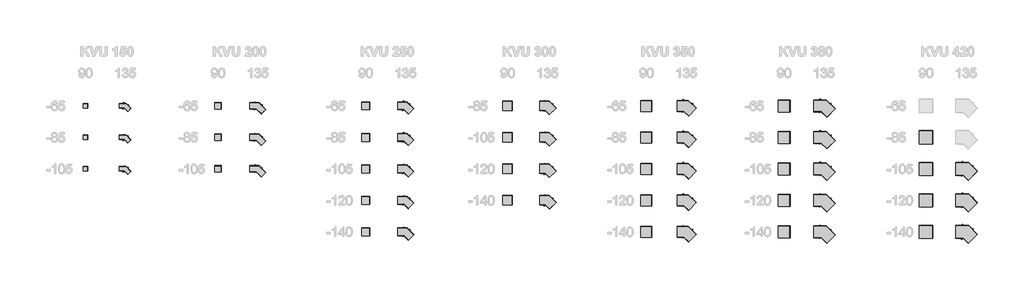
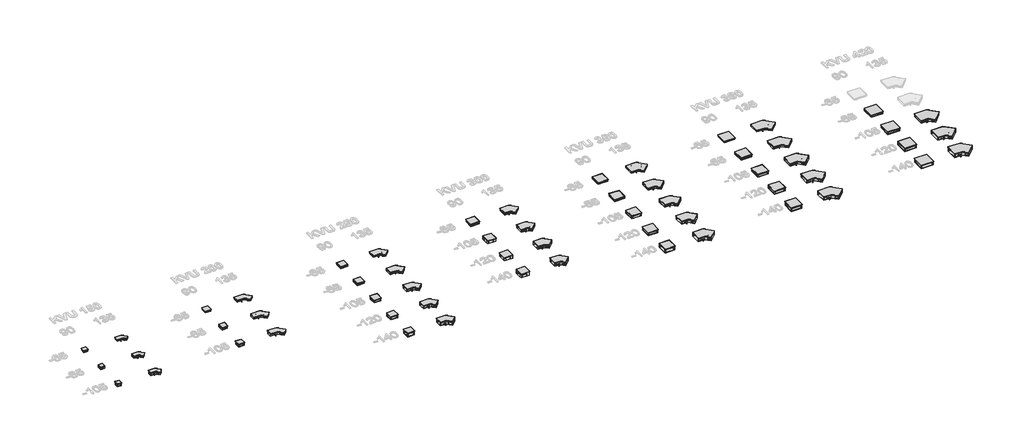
# One storey, part 1 of 6: 113 proxies.
"""IFC4 building model written with IfcOpenShell, lengths in millimetres."""

from ifc_helpers import new_model, si_unit, origin, place, context, project, spatial, transform, mapped, element, save
from components import mechanical_equipment_6bd45da9, mechanical_equipment_f506e6a4, mechanical_equipment_46e36d35, mechanical_equipment_8c528c47, mechanical_equipment_25e5aaf1, mechanical_equipment_80ec096f, mechanical_equipment_4d0f178e, mechanical_equipment_6c30b403, mechanical_equipment_c4d98315, mechanical_equipment_330198d8, mechanical_equipment_ebc65f48, mechanical_equipment_324d8ace, mechanical_equipment_b9d91c73, mechanical_equipment_570afbbc, mechanical_equipment_9d287563, mechanical_equipment_6aecba1d, mechanical_equipment_7f4ab304, mechanical_equipment_ec8b2621, mechanical_equipment_ff435718, mechanical_equipment_9ba64870, mechanical_equipment_9e960046, mechanical_equipment_96d6deb1, mechanical_equipment_dacad1b7, mechanical_equipment_d0ffbf03, mechanical_equipment_f91bf6bd, mechanical_equipment_a1f23103, mechanical_equipment_c13f3576, mechanical_equipment_a61a3835, mechanical_equipment_5477d933, mechanical_equipment_fffb673e, mechanical_equipment_76edeb39, mechanical_equipment_ec97f771, mechanical_equipment_c6cb3a49, mechanical_equipment_d3b76028, mechanical_equipment_a8ea22db, mechanical_equipment_4d0b1c90, mechanical_equipment_07f47053, mechanical_equipment_b19bae29, mechanical_equipment_93fa4cb1, mechanical_equipment_74403092, mechanical_equipment_1f7193ec, mechanical_equipment_313bb276, mechanical_equipment_4f6bdbb5, mechanical_equipment_5bd0f2d3, mechanical_equipment_e573c716, mechanical_equipment_84d758d9, mechanical_equipment_52aff5d5, mechanical_equipment_a8a21285, mechanical_equipment_264bb3c7, mechanical_equipment_83b2ba30, mechanical_equipment_51e73712, mechanical_equipment_cb58eeb0, mechanical_equipment_aafe2edb, mechanical_equipment_b99a253c, mechanical_equipment_ea0a8ee2, mechanical_equipment_19667f82, mechanical_equipment_67af57b6, mechanical_equipment_d35ea5ac, mechanical_equipment_8923451d, mechanical_equipment_f32ddc85, mechanical_equipment_12d65528, mechanical_equipment_dc4bdf0c, mechanical_equipment_66e0d860, mechanical_equipment_fd9d8960, mechanical_equipment_69cd810f, mechanical_equipment_021ceee1, mechanical_equipment_e89fac1e, mechanical_equipment_4af7111c, mechanical_equipment_7865cae7, mechanical_equipment_8565b647, mechanical_equipment_2ab1f291, mechanical_equipment_f61f8570

model = new_model("IFC4")

# Units and contexts
model_context = context("Model", 3, world=origin())
ifc_project = project(units=[si_unit("LENGTHUNIT", "METRE", prefix="MILLI")], contexts=[model_context])

# Site, building, storey
site = spatial("IfcSite", under=ifc_project)
building = spatial("IfcBuilding", under=site)
storey = spatial("IfcBuildingStorey", under=building, Name="Этаж 01", Elevation=0.0)

# Proxies
placement = place(None, origin())
mechanical_equipment_shape = mechanical_equipment_6bd45da9(model_context)
element("IfcBuildingElementProxy", 1, Name="TECHNO_Угловой элемент_KVU : 200_065_90°", ObjectType="TECHNO_Угловой элемент_KVU : 200_065_90°", at=placement, inside=storey, context=model_context, shape_type="MappedRepresentation", body=[
    mapped(mechanical_equipment_shape, transform((1198.7177503, 1218.1365205, 0.0), x_axis=(1.0, 0.0, 0.0), y_axis=(0.0, 1.0, 0.0), z_axis=(0.0, 0.0, 1.0))),
])
mechanical_equipment_2_shape = mechanical_equipment_f506e6a4(model_context)
element("IfcBuildingElementProxy", 2, Name="TECHNO_Угловой элемент_KVU : 150_065_90°", ObjectType="TECHNO_Угловой элемент_KVU : 150_065_90°", at=placement, inside=storey, context=model_context, shape_type="MappedRepresentation", body=[
    mapped(mechanical_equipment_2_shape, transform((-2976.2822497, 1218.1365205, 0.0), x_axis=(1.0, 0.0, 0.0), y_axis=(0.0, 1.0, 0.0), z_axis=(0.0, 0.0, 1.0))),
])
mechanical_equipment_3_shape = mechanical_equipment_46e36d35(model_context)
element("IfcBuildingElementProxy", 3, Name="TECHNO_Решетка_KVU : Решетка рулонная деревянная / Светлое дерево", ObjectType="TECHNO_Решетка_KVU : Решетка рулонная деревянная / Светлое дерево", at=placement, inside=storey, context=model_context, shape_type="MappedRepresentation", body=[
    mapped(mechanical_equipment_3_shape, transform((-2901.2822497, 1218.1365205, 0.0), x_axis=(1.0, 0.0, 0.0), y_axis=(0.0, 1.0, 0.0), z_axis=(0.0, 0.0, 1.0))),
])
element("IfcBuildingElementProxy", 4, Name="TECHNO_Решетка_KVU : Решетка рулонная деревянная / Светлое дерево", ObjectType="TECHNO_Решетка_KVU : Решетка рулонная деревянная / Светлое дерево", at=placement, inside=storey, context=model_context, shape_type="MappedRepresentation", body=[
    mapped(mechanical_equipment_3_shape, transform((-2901.2822497, 218.1365205, 0.0), x_axis=(1.0, 0.0, 0.0), y_axis=(0.0, 1.0, 0.0), z_axis=(0.0, 0.0, 1.0))),
])
element("IfcBuildingElementProxy", 5, Name="TECHNO_Решетка_KVU : Решетка рулонная деревянная / Светлое дерево", ObjectType="TECHNO_Решетка_KVU : Решетка рулонная деревянная / Светлое дерево", at=placement, inside=storey, context=model_context, shape_type="MappedRepresentation", body=[
    mapped(mechanical_equipment_3_shape, transform((-2901.2822497, -781.8634795, 0.0), x_axis=(1.0, 0.0, 0.0), y_axis=(0.0, 1.0, 0.0), z_axis=(0.0, 0.0, 1.0))),
])
mechanical_equipment_4_shape = mechanical_equipment_8c528c47(model_context)
element("IfcBuildingElementProxy", 6, Name="TECHNO_Угловой элемент_KVU : 150_065_135°", ObjectType="TECHNO_Угловой элемент_KVU : 150_065_135°", at=placement, inside=storey, context=model_context, shape_type="MappedRepresentation", body=[
    mapped(mechanical_equipment_4_shape, transform((-1822.2162325, 1218.1365205, 0.0), x_axis=(1.0, 0.0, 0.0), y_axis=(0.0, 1.0, 0.0), z_axis=(0.0, 0.0, 1.0))),
])
mechanical_equipment_5_shape = mechanical_equipment_25e5aaf1(model_context)
element("IfcBuildingElementProxy", 7, Name="TECHNO_Решетка_KVU : Решетка рулонная алюминиевая/ Белый RAL 9016", ObjectType="TECHNO_Решетка_KVU : Решетка рулонная алюминиевая/ Белый RAL 9016", at=placement, inside=storey, context=model_context, shape_type="MappedRepresentation", body=[
    mapped(mechanical_equipment_5_shape, transform((-1641.2822497, 1218.1365205, 0.0), x_axis=(1.0, 0.0, 0.0), y_axis=(0.0, 1.0, 0.0), z_axis=(0.0, 0.0, 1.0))),
])
element("IfcBuildingElementProxy", 8, Name="TECHNO_Решетка_KVU : Решетка рулонная алюминиевая/ Белый RAL 9016", ObjectType="TECHNO_Решетка_KVU : Решетка рулонная алюминиевая/ Белый RAL 9016", at=placement, inside=storey, context=model_context, shape_type="MappedRepresentation", body=[
    mapped(mechanical_equipment_5_shape, transform((-1641.2822497, 218.1365205, 0.0), x_axis=(1.0, 0.0, 0.0), y_axis=(0.0, 1.0, 0.0), z_axis=(0.0, 0.0, 1.0))),
])
element("IfcBuildingElementProxy", 9, Name="TECHNO_Решетка_KVU : Решетка рулонная алюминиевая/ Белый RAL 9016", ObjectType="TECHNO_Решетка_KVU : Решетка рулонная алюминиевая/ Белый RAL 9016", at=placement, inside=storey, context=model_context, shape_type="MappedRepresentation", body=[
    mapped(mechanical_equipment_5_shape, transform((-1641.2822497, -781.8634795, 0.0), x_axis=(1.0, 0.0, 0.0), y_axis=(0.0, 1.0, 0.0), z_axis=(0.0, 0.0, 1.0))),
])
mechanical_equipment_6_shape = mechanical_equipment_80ec096f(model_context)
element("IfcBuildingElementProxy", 10, Name="TECHNO_Угловой элемент_KVU : 150_085_90°", ObjectType="TECHNO_Угловой элемент_KVU : 150_085_90°", at=placement, inside=storey, context=model_context, shape_type="MappedRepresentation", body=[
    mapped(mechanical_equipment_6_shape, transform((-2976.2822497, 218.1365205, 0.0), x_axis=(1.0, 0.0, 0.0), y_axis=(0.0, 1.0, 0.0), z_axis=(0.0, 0.0, 1.0))),
])
mechanical_equipment_7_shape = mechanical_equipment_4d0f178e(model_context)
element("IfcBuildingElementProxy", 11, Name="TECHNO_Угловой элемент_KVU : 150_085_135°", ObjectType="TECHNO_Угловой элемент_KVU : 150_085_135°", at=placement, inside=storey, context=model_context, shape_type="MappedRepresentation", body=[
    mapped(mechanical_equipment_7_shape, transform((-1822.2162325, 218.1365205, 0.0), x_axis=(1.0, 0.0, 0.0), y_axis=(0.0, 1.0, 0.0), z_axis=(0.0, 0.0, 1.0))),
])
mechanical_equipment_8_shape = mechanical_equipment_6c30b403(model_context)
element("IfcBuildingElementProxy", 12, Name="TECHNO_Угловой элемент_KVU : 150_105_90°", ObjectType="TECHNO_Угловой элемент_KVU : 150_105_90°", at=placement, inside=storey, context=model_context, shape_type="MappedRepresentation", body=[
    mapped(mechanical_equipment_8_shape, transform((-2976.2822497, -781.8634795, 0.0), x_axis=(1.0, 0.0, 0.0), y_axis=(0.0, 1.0, 0.0), z_axis=(0.0, 0.0, 1.0))),
])
mechanical_equipment_9_shape = mechanical_equipment_c4d98315(model_context)
element("IfcBuildingElementProxy", 13, Name="TECHNO_Угловой элемент_KVU : 150_105_135°", ObjectType="TECHNO_Угловой элемент_KVU : 150_105_135°", at=placement, inside=storey, context=model_context, shape_type="MappedRepresentation", body=[
    mapped(mechanical_equipment_9_shape, transform((-1822.2162325, -781.8634795, 0.0), x_axis=(1.0, 0.0, 0.0), y_axis=(0.0, 1.0, 0.0), z_axis=(0.0, 0.0, 1.0))),
])
mechanical_equipment_10_shape = mechanical_equipment_330198d8(model_context)
element("IfcBuildingElementProxy", 14, Name="TECHNO_Решетка_KVU : Решетка рулонная деревянная / Светлое дерево", ObjectType="TECHNO_Решетка_KVU : Решетка рулонная деревянная / Светлое дерево", at=placement, inside=storey, context=model_context, shape_type="MappedRepresentation", body=[
    mapped(mechanical_equipment_10_shape, transform((1298.7177503, 1218.1365205, 0.0), x_axis=(1.0, 0.0, 0.0), y_axis=(0.0, 1.0, 0.0), z_axis=(0.0, 0.0, 1.0))),
])
element("IfcBuildingElementProxy", 15, Name="TECHNO_Решетка_KVU : Решетка рулонная деревянная / Светлое дерево", ObjectType="TECHNO_Решетка_KVU : Решетка рулонная деревянная / Светлое дерево", at=placement, inside=storey, context=model_context, shape_type="MappedRepresentation", body=[
    mapped(mechanical_equipment_10_shape, transform((1298.7177503, 218.1365205, 0.0), x_axis=(1.0, 0.0, 0.0), y_axis=(0.0, 1.0, 0.0), z_axis=(0.0, 0.0, 1.0))),
])
element("IfcBuildingElementProxy", 16, Name="TECHNO_Решетка_KVU : Решетка рулонная деревянная / Светлое дерево", ObjectType="TECHNO_Решетка_KVU : Решетка рулонная деревянная / Светлое дерево", at=placement, inside=storey, context=model_context, shape_type="MappedRepresentation", body=[
    mapped(mechanical_equipment_10_shape, transform((1298.7177503, -781.8634795, 0.0), x_axis=(1.0, 0.0, 0.0), y_axis=(0.0, 1.0, 0.0), z_axis=(0.0, 0.0, 1.0))),
])
mechanical_equipment_11_shape = mechanical_equipment_ebc65f48(model_context)
element("IfcBuildingElementProxy", 17, Name="TECHNO_Угловой элемент_KVU : 200_065_135°", ObjectType="TECHNO_Угловой элемент_KVU : 200_065_135°", at=placement, inside=storey, context=model_context, shape_type="MappedRepresentation", body=[
    mapped(mechanical_equipment_11_shape, transform((2300.1391066, 1218.1365205, 0.0), x_axis=(1.0, 0.0, 0.0), y_axis=(0.0, 1.0, 0.0), z_axis=(0.0, 0.0, 1.0))),
])
mechanical_equipment_12_shape = mechanical_equipment_324d8ace(model_context)
element("IfcBuildingElementProxy", 18, Name="TECHNO_Решетка_KVU : Решетка рулонная алюминиевая/ Белый RAL 9016", ObjectType="TECHNO_Решетка_KVU : Решетка рулонная алюминиевая/ Белый RAL 9016", at=placement, inside=storey, context=model_context, shape_type="MappedRepresentation", body=[
    mapped(mechanical_equipment_12_shape, transform((2558.7177503, 1218.1365205, 0.0), x_axis=(1.0, 0.0, 0.0), y_axis=(0.0, 1.0, 0.0), z_axis=(0.0, 0.0, 1.0))),
])
element("IfcBuildingElementProxy", 19, Name="TECHNO_Решетка_KVU : Решетка рулонная алюминиевая/ Белый RAL 9016", ObjectType="TECHNO_Решетка_KVU : Решетка рулонная алюминиевая/ Белый RAL 9016", at=placement, inside=storey, context=model_context, shape_type="MappedRepresentation", body=[
    mapped(mechanical_equipment_12_shape, transform((2558.7177503, 218.1365205, 0.0), x_axis=(1.0, 0.0, 0.0), y_axis=(0.0, 1.0, 0.0), z_axis=(0.0, 0.0, 1.0))),
])
element("IfcBuildingElementProxy", 20, Name="TECHNO_Решетка_KVU : Решетка рулонная алюминиевая/ Белый RAL 9016", ObjectType="TECHNO_Решетка_KVU : Решетка рулонная алюминиевая/ Белый RAL 9016", at=placement, inside=storey, context=model_context, shape_type="MappedRepresentation", body=[
    mapped(mechanical_equipment_12_shape, transform((2558.7177503, -781.8634795, 0.0), x_axis=(1.0, 0.0, 0.0), y_axis=(0.0, 1.0, 0.0), z_axis=(0.0, 0.0, 1.0))),
])
mechanical_equipment_13_shape = mechanical_equipment_b9d91c73(model_context)
element("IfcBuildingElementProxy", 21, Name="TECHNO_Угловой элемент_KVU : 200_085_90°", ObjectType="TECHNO_Угловой элемент_KVU : 200_085_90°", at=placement, inside=storey, context=model_context, shape_type="MappedRepresentation", body=[
    mapped(mechanical_equipment_13_shape, transform((1198.7177503, 218.1365205, 0.0), x_axis=(1.0, 0.0, 0.0), y_axis=(0.0, 1.0, 0.0), z_axis=(0.0, 0.0, 1.0))),
])
mechanical_equipment_14_shape = mechanical_equipment_570afbbc(model_context)
element("IfcBuildingElementProxy", 22, Name="TECHNO_Угловой элемент_KVU : 200_085_135°", ObjectType="TECHNO_Угловой элемент_KVU : 200_085_135°", at=placement, inside=storey, context=model_context, shape_type="MappedRepresentation", body=[
    mapped(mechanical_equipment_14_shape, transform((2300.1391066, 218.1365205, 0.0), x_axis=(1.0, 0.0, 0.0), y_axis=(0.0, 1.0, 0.0), z_axis=(0.0, 0.0, 1.0))),
])
mechanical_equipment_15_shape = mechanical_equipment_9d287563(model_context)
element("IfcBuildingElementProxy", 23, Name="TECHNO_Угловой элемент_KVU : 200_105_90°", ObjectType="TECHNO_Угловой элемент_KVU : 200_105_90°", at=placement, inside=storey, context=model_context, shape_type="MappedRepresentation", body=[
    mapped(mechanical_equipment_15_shape, transform((1198.7177503, -781.8634795, 0.0), x_axis=(1.0, 0.0, 0.0), y_axis=(0.0, 1.0, 0.0), z_axis=(0.0, 0.0, 1.0))),
])
mechanical_equipment_16_shape = mechanical_equipment_6aecba1d(model_context)
element("IfcBuildingElementProxy", 24, Name="TECHNO_Угловой элемент_KVU : 200_105_135°", ObjectType="TECHNO_Угловой элемент_KVU : 200_105_135°", at=placement, inside=storey, context=model_context, shape_type="MappedRepresentation", body=[
    mapped(mechanical_equipment_16_shape, transform((2300.1391066, -781.8634795, 0.0), x_axis=(1.0, 0.0, 0.0), y_axis=(0.0, 1.0, 0.0), z_axis=(0.0, 0.0, 1.0))),
])
mechanical_equipment_17_shape = mechanical_equipment_7f4ab304(model_context)
element("IfcBuildingElementProxy", 25, Name="TECHNO_Угловой элемент_KVU : 250_065_90°", ObjectType="TECHNO_Угловой элемент_KVU : 250_065_90°", at=placement, inside=storey, context=model_context, shape_type="MappedRepresentation", body=[
    mapped(mechanical_equipment_17_shape, transform((5853.7177503, 1218.1365205, 0.0), x_axis=(1.0, 0.0, 0.0), y_axis=(0.0, 1.0, 0.0), z_axis=(0.0, 0.0, 1.0))),
])
mechanical_equipment_18_shape = mechanical_equipment_ec8b2621(model_context)
element("IfcBuildingElementProxy", 26, Name="TECHNO_Решетка_KVU : Решетка рулонная деревянная / Светлое дерево", ObjectType="TECHNO_Решетка_KVU : Решетка рулонная деревянная / Светлое дерево", at=placement, inside=storey, context=model_context, shape_type="MappedRepresentation", body=[
    mapped(mechanical_equipment_18_shape, transform((5978.7177503, 1218.1365205, 0.0), x_axis=(1.0, 0.0, 0.0), y_axis=(0.0, 1.0, 0.0), z_axis=(0.0, 0.0, 1.0))),
])
element("IfcBuildingElementProxy", 27, Name="TECHNO_Решетка_KVU : Решетка рулонная деревянная / Светлое дерево", ObjectType="TECHNO_Решетка_KVU : Решетка рулонная деревянная / Светлое дерево", at=placement, inside=storey, context=model_context, shape_type="MappedRepresentation", body=[
    mapped(mechanical_equipment_18_shape, transform((5978.7177503, 218.1365205, 0.0), x_axis=(1.0, 0.0, 0.0), y_axis=(0.0, 1.0, 0.0), z_axis=(0.0, 0.0, 1.0))),
])
element("IfcBuildingElementProxy", 28, Name="TECHNO_Решетка_KVU : Решетка рулонная деревянная / Светлое дерево", ObjectType="TECHNO_Решетка_KVU : Решетка рулонная деревянная / Светлое дерево", at=placement, inside=storey, context=model_context, shape_type="MappedRepresentation", body=[
    mapped(mechanical_equipment_18_shape, transform((5978.7177503, -781.8634795, 0.0), x_axis=(1.0, 0.0, 0.0), y_axis=(0.0, 1.0, 0.0), z_axis=(0.0, 0.0, 1.0))),
])
element("IfcBuildingElementProxy", 29, Name="TECHNO_Решетка_KVU : Решетка рулонная деревянная / Светлое дерево", ObjectType="TECHNO_Решетка_KVU : Решетка рулонная деревянная / Светлое дерево", at=placement, inside=storey, context=model_context, shape_type="MappedRepresentation", body=[
    mapped(mechanical_equipment_18_shape, transform((5978.7177503, -1781.8634795, 0.0), x_axis=(1.0, 0.0, 0.0), y_axis=(0.0, 1.0, 0.0), z_axis=(0.0, 0.0, 1.0))),
])
element("IfcBuildingElementProxy", 30, Name="TECHNO_Решетка_KVU : Решетка рулонная деревянная / Светлое дерево", ObjectType="TECHNO_Решетка_KVU : Решетка рулонная деревянная / Светлое дерево", at=placement, inside=storey, context=model_context, shape_type="MappedRepresentation", body=[
    mapped(mechanical_equipment_18_shape, transform((5978.7177503, -2781.8634795, 0.0), x_axis=(1.0, 0.0, 0.0), y_axis=(0.0, 1.0, 0.0), z_axis=(0.0, 0.0, 1.0))),
])
mechanical_equipment_19_shape = mechanical_equipment_ff435718(model_context)
element("IfcBuildingElementProxy", 31, Name="TECHNO_Угловой элемент_KVU : 250_065_135°", ObjectType="TECHNO_Угловой элемент_KVU : 250_065_135°", at=placement, inside=storey, context=model_context, shape_type="MappedRepresentation", body=[
    mapped(mechanical_equipment_19_shape, transform((6990.4944456, 1218.1365205, 0.0), x_axis=(1.0, 0.0, 0.0), y_axis=(0.0, 1.0, 0.0), z_axis=(0.0, 0.0, 1.0))),
])
mechanical_equipment_20_shape = mechanical_equipment_9ba64870(model_context)
element("IfcBuildingElementProxy", 32, Name="TECHNO_Решетка_KVU : Решетка рулонная алюминиевая/ Белый RAL 9016", ObjectType="TECHNO_Решетка_KVU : Решетка рулонная алюминиевая/ Белый RAL 9016", at=placement, inside=storey, context=model_context, shape_type="MappedRepresentation", body=[
    mapped(mechanical_equipment_20_shape, transform((7238.7177503, 1218.1365205, 0.0), x_axis=(1.0, 0.0, 0.0), y_axis=(0.0, 1.0, 0.0), z_axis=(0.0, 0.0, 1.0))),
])
element("IfcBuildingElementProxy", 33, Name="TECHNO_Решетка_KVU : Решетка рулонная алюминиевая/ Белый RAL 9016", ObjectType="TECHNO_Решетка_KVU : Решетка рулонная алюминиевая/ Белый RAL 9016", at=placement, inside=storey, context=model_context, shape_type="MappedRepresentation", body=[
    mapped(mechanical_equipment_20_shape, transform((7238.7177503, 218.1365205, 0.0), x_axis=(1.0, 0.0, 0.0), y_axis=(0.0, 1.0, 0.0), z_axis=(0.0, 0.0, 1.0))),
])
element("IfcBuildingElementProxy", 34, Name="TECHNO_Решетка_KVU : Решетка рулонная алюминиевая/ Белый RAL 9016", ObjectType="TECHNO_Решетка_KVU : Решетка рулонная алюминиевая/ Белый RAL 9016", at=placement, inside=storey, context=model_context, shape_type="MappedRepresentation", body=[
    mapped(mechanical_equipment_20_shape, transform((7238.7177503, -781.8634795, 0.0), x_axis=(1.0, 0.0, 0.0), y_axis=(0.0, 1.0, 0.0), z_axis=(0.0, 0.0, 1.0))),
])
element("IfcBuildingElementProxy", 35, Name="TECHNO_Решетка_KVU : Решетка рулонная алюминиевая/ Белый RAL 9016", ObjectType="TECHNO_Решетка_KVU : Решетка рулонная алюминиевая/ Белый RAL 9016", at=placement, inside=storey, context=model_context, shape_type="MappedRepresentation", body=[
    mapped(mechanical_equipment_20_shape, transform((7238.7177503, -1781.8634795, 0.0), x_axis=(1.0, 0.0, 0.0), y_axis=(0.0, 1.0, 0.0), z_axis=(0.0, 0.0, 1.0))),
])
element("IfcBuildingElementProxy", 36, Name="TECHNO_Решетка_KVU : Решетка рулонная алюминиевая/ Белый RAL 9016", ObjectType="TECHNO_Решетка_KVU : Решетка рулонная алюминиевая/ Белый RAL 9016", at=placement, inside=storey, context=model_context, shape_type="MappedRepresentation", body=[
    mapped(mechanical_equipment_20_shape, transform((7238.7177503, -2781.8634795, 0.0), x_axis=(1.0, 0.0, 0.0), y_axis=(0.0, 1.0, 0.0), z_axis=(0.0, 0.0, 1.0))),
])
mechanical_equipment_21_shape = mechanical_equipment_9e960046(model_context)
element("IfcBuildingElementProxy", 37, Name="TECHNO_Угловой элемент_KVU : 250_085_90°", ObjectType="TECHNO_Угловой элемент_KVU : 250_085_90°", at=placement, inside=storey, context=model_context, shape_type="MappedRepresentation", body=[
    mapped(mechanical_equipment_21_shape, transform((5853.7177503, 218.1365205, 0.0), x_axis=(1.0, 0.0, 0.0), y_axis=(0.0, 1.0, 0.0), z_axis=(0.0, 0.0, 1.0))),
])
mechanical_equipment_22_shape = mechanical_equipment_96d6deb1(model_context)
element("IfcBuildingElementProxy", 38, Name="TECHNO_Угловой элемент_KVU : 250_085_135°", ObjectType="TECHNO_Угловой элемент_KVU : 250_085_135°", at=placement, inside=storey, context=model_context, shape_type="MappedRepresentation", body=[
    mapped(mechanical_equipment_22_shape, transform((6990.4944456, 218.1365205, 0.0), x_axis=(1.0, 0.0, 0.0), y_axis=(0.0, 1.0, 0.0), z_axis=(0.0, 0.0, 1.0))),
])
mechanical_equipment_23_shape = mechanical_equipment_dacad1b7(model_context)
element("IfcBuildingElementProxy", 39, Name="TECHNO_Угловой элемент_KVU : 250_105_90°", ObjectType="TECHNO_Угловой элемент_KVU : 250_105_90°", at=placement, inside=storey, context=model_context, shape_type="MappedRepresentation", body=[
    mapped(mechanical_equipment_23_shape, transform((5853.7177503, -781.8634795, 0.0), x_axis=(1.0, 0.0, 0.0), y_axis=(0.0, 1.0, 0.0), z_axis=(0.0, 0.0, 1.0))),
])
mechanical_equipment_24_shape = mechanical_equipment_d0ffbf03(model_context)
element("IfcBuildingElementProxy", 40, Name="TECHNO_Угловой элемент_KVU : 250_105_135°", ObjectType="TECHNO_Угловой элемент_KVU : 250_105_135°", at=placement, inside=storey, context=model_context, shape_type="MappedRepresentation", body=[
    mapped(mechanical_equipment_24_shape, transform((6990.4944456, -781.8634795, 0.0), x_axis=(1.0, 0.0, 0.0), y_axis=(0.0, 1.0, 0.0), z_axis=(0.0, 0.0, 1.0))),
])
mechanical_equipment_25_shape = mechanical_equipment_f91bf6bd(model_context)
element("IfcBuildingElementProxy", 41, Name="TECHNO_Угловой элемент_KVU : 250_120_90°", ObjectType="TECHNO_Угловой элемент_KVU : 250_120_90°", at=placement, inside=storey, context=model_context, shape_type="MappedRepresentation", body=[
    mapped(mechanical_equipment_25_shape, transform((5853.7177503, -1781.8634795, 0.0), x_axis=(1.0, 0.0, 0.0), y_axis=(0.0, 1.0, 0.0), z_axis=(0.0, 0.0, 1.0))),
])
mechanical_equipment_26_shape = mechanical_equipment_a1f23103(model_context)
element("IfcBuildingElementProxy", 42, Name="TECHNO_Угловой элемент_KVU : 250_120_135°", ObjectType="TECHNO_Угловой элемент_KVU : 250_120_135°", at=placement, inside=storey, context=model_context, shape_type="MappedRepresentation", body=[
    mapped(mechanical_equipment_26_shape, transform((6990.4944456, -1781.8634795, 0.0), x_axis=(1.0, 0.0, 0.0), y_axis=(0.0, 1.0, 0.0), z_axis=(0.0, 0.0, 1.0))),
])
mechanical_equipment_27_shape = mechanical_equipment_c13f3576(model_context)
element("IfcBuildingElementProxy", 43, Name="TECHNO_Угловой элемент_KVU : 250_140_90°", ObjectType="TECHNO_Угловой элемент_KVU : 250_140_90°", at=placement, inside=storey, context=model_context, shape_type="MappedRepresentation", body=[
    mapped(mechanical_equipment_27_shape, transform((5853.7177503, -2781.8634795, 0.0), x_axis=(1.0, 0.0, 0.0), y_axis=(0.0, 1.0, 0.0), z_axis=(0.0, 0.0, 1.0))),
])
mechanical_equipment_28_shape = mechanical_equipment_a61a3835(model_context)
element("IfcBuildingElementProxy", 44, Name="TECHNO_Угловой элемент_KVU : 250_140_135°", ObjectType="TECHNO_Угловой элемент_KVU : 250_140_135°", at=placement, inside=storey, context=model_context, shape_type="MappedRepresentation", body=[
    mapped(mechanical_equipment_28_shape, transform((6990.4944456, -2781.8634795, 0.0), x_axis=(1.0, 0.0, 0.0), y_axis=(0.0, 1.0, 0.0), z_axis=(0.0, 0.0, 1.0))),
])
mechanical_equipment_29_shape = mechanical_equipment_5477d933(model_context)
element("IfcBuildingElementProxy", 45, Name="TECHNO_Угловой элемент_KVU : 300_085_90°", ObjectType="TECHNO_Угловой элемент_KVU : 300_085_90°", at=placement, inside=storey, context=model_context, shape_type="MappedRepresentation", body=[
    mapped(mechanical_equipment_29_shape, transform((10328.7177503, 1218.1365205, 0.0), x_axis=(1.0, 0.0, 0.0), y_axis=(0.0, 1.0, 0.0), z_axis=(0.0, 0.0, 1.0))),
])
mechanical_equipment_30_shape = mechanical_equipment_fffb673e(model_context)
element("IfcBuildingElementProxy", 46, Name="TECHNO_Решетка_KVU : Решетка рулонная деревянная / Светлое дерево", ObjectType="TECHNO_Решетка_KVU : Решетка рулонная деревянная / Светлое дерево", at=placement, inside=storey, context=model_context, shape_type="MappedRepresentation", body=[
    mapped(mechanical_equipment_30_shape, transform((10478.7177503, 1218.1365205, 0.0), x_axis=(1.0, 0.0, 0.0), y_axis=(0.0, 1.0, 0.0), z_axis=(0.0, 0.0, 1.0))),
])
element("IfcBuildingElementProxy", 47, Name="TECHNO_Решетка_KVU : Решетка рулонная деревянная / Светлое дерево", ObjectType="TECHNO_Решетка_KVU : Решетка рулонная деревянная / Светлое дерево", at=placement, inside=storey, context=model_context, shape_type="MappedRepresentation", body=[
    mapped(mechanical_equipment_30_shape, transform((10478.7177503, 218.1365205, 0.0), x_axis=(1.0, 0.0, 0.0), y_axis=(0.0, 1.0, 0.0), z_axis=(0.0, 0.0, 1.0))),
])
element("IfcBuildingElementProxy", 48, Name="TECHNO_Решетка_KVU : Решетка рулонная деревянная / Светлое дерево", ObjectType="TECHNO_Решетка_KVU : Решетка рулонная деревянная / Светлое дерево", at=placement, inside=storey, context=model_context, shape_type="MappedRepresentation", body=[
    mapped(mechanical_equipment_30_shape, transform((10478.7177503, -781.8634795, 0.0), x_axis=(1.0, 0.0, 0.0), y_axis=(0.0, 1.0, 0.0), z_axis=(0.0, 0.0, 1.0))),
])
element("IfcBuildingElementProxy", 49, Name="TECHNO_Решетка_KVU : Решетка рулонная деревянная / Светлое дерево", ObjectType="TECHNO_Решетка_KVU : Решетка рулонная деревянная / Светлое дерево", at=placement, inside=storey, context=model_context, shape_type="MappedRepresentation", body=[
    mapped(mechanical_equipment_30_shape, transform((10478.7177503, -1781.8634795, 0.0), x_axis=(1.0, 0.0, 0.0), y_axis=(0.0, 1.0, 0.0), z_axis=(0.0, 0.0, 1.0))),
])
mechanical_equipment_31_shape = mechanical_equipment_76edeb39(model_context)
element("IfcBuildingElementProxy", 50, Name="TECHNO_Угловой элемент_KVU : 300_085_135°", ObjectType="TECHNO_Угловой элемент_KVU : 300_085_135°", at=placement, inside=storey, context=model_context, shape_type="MappedRepresentation", body=[
    mapped(mechanical_equipment_31_shape, transform((11499.8497847, 1218.1365205, 0.0), x_axis=(1.0, 0.0, 0.0), y_axis=(0.0, 1.0, 0.0), z_axis=(0.0, 0.0, 1.0))),
])
mechanical_equipment_32_shape = mechanical_equipment_ec97f771(model_context)
element("IfcBuildingElementProxy", 51, Name="TECHNO_Решетка_KVU : Решетка рулонная алюминиевая/ Белый RAL 9016", ObjectType="TECHNO_Решетка_KVU : Решетка рулонная алюминиевая/ Белый RAL 9016", at=placement, inside=storey, context=model_context, shape_type="MappedRepresentation", body=[
    mapped(mechanical_equipment_32_shape, transform((11738.7177503, 1218.1365205, 0.0), x_axis=(1.0, 0.0, 0.0), y_axis=(0.0, 1.0, 0.0), z_axis=(0.0, 0.0, 1.0))),
])
element("IfcBuildingElementProxy", 52, Name="TECHNO_Решетка_KVU : Решетка рулонная алюминиевая/ Белый RAL 9016", ObjectType="TECHNO_Решетка_KVU : Решетка рулонная алюминиевая/ Белый RAL 9016", at=placement, inside=storey, context=model_context, shape_type="MappedRepresentation", body=[
    mapped(mechanical_equipment_32_shape, transform((11738.7177503, 218.1365205, 0.0), x_axis=(1.0, 0.0, 0.0), y_axis=(0.0, 1.0, 0.0), z_axis=(0.0, 0.0, 1.0))),
])
element("IfcBuildingElementProxy", 53, Name="TECHNO_Решетка_KVU : Решетка рулонная алюминиевая/ Белый RAL 9016", ObjectType="TECHNO_Решетка_KVU : Решетка рулонная алюминиевая/ Белый RAL 9016", at=placement, inside=storey, context=model_context, shape_type="MappedRepresentation", body=[
    mapped(mechanical_equipment_32_shape, transform((11738.7177503, -781.8634795, 0.0), x_axis=(1.0, 0.0, 0.0), y_axis=(0.0, 1.0, 0.0), z_axis=(0.0, 0.0, 1.0))),
])
element("IfcBuildingElementProxy", 54, Name="TECHNO_Решетка_KVU : Решетка рулонная алюминиевая/ Белый RAL 9016", ObjectType="TECHNO_Решетка_KVU : Решетка рулонная алюминиевая/ Белый RAL 9016", at=placement, inside=storey, context=model_context, shape_type="MappedRepresentation", body=[
    mapped(mechanical_equipment_32_shape, transform((11738.7177503, -1781.8634795, 0.0), x_axis=(1.0, 0.0, 0.0), y_axis=(0.0, 1.0, 0.0), z_axis=(0.0, 0.0, 1.0))),
])
mechanical_equipment_33_shape = mechanical_equipment_c6cb3a49(model_context)
element("IfcBuildingElementProxy", 55, Name="TECHNO_Угловой элемент_KVU : 300_105_90°", ObjectType="TECHNO_Угловой элемент_KVU : 300_105_90°", at=placement, inside=storey, context=model_context, shape_type="MappedRepresentation", body=[
    mapped(mechanical_equipment_33_shape, transform((10328.7177503, 218.1365205, 0.0), x_axis=(1.0, 0.0, 0.0), y_axis=(0.0, 1.0, 0.0), z_axis=(0.0, 0.0, 1.0))),
])
mechanical_equipment_34_shape = mechanical_equipment_d3b76028(model_context)
element("IfcBuildingElementProxy", 56, Name="TECHNO_Угловой элемент_KVU : 300_105_135°", ObjectType="TECHNO_Угловой элемент_KVU : 300_105_135°", at=placement, inside=storey, context=model_context, shape_type="MappedRepresentation", body=[
    mapped(mechanical_equipment_34_shape, transform((11499.8497847, 218.1365205, 0.0), x_axis=(1.0, 0.0, 0.0), y_axis=(0.0, 1.0, 0.0), z_axis=(0.0, 0.0, 1.0))),
])
mechanical_equipment_35_shape = mechanical_equipment_a8ea22db(model_context)
element("IfcBuildingElementProxy", 57, Name="TECHNO_Угловой элемент_KVU : 300_120_90°", ObjectType="TECHNO_Угловой элемент_KVU : 300_120_90°", at=placement, inside=storey, context=model_context, shape_type="MappedRepresentation", body=[
    mapped(mechanical_equipment_35_shape, transform((10328.7177503, -781.8634795, 0.0), x_axis=(1.0, 0.0, 0.0), y_axis=(0.0, 1.0, 0.0), z_axis=(0.0, 0.0, 1.0))),
])
mechanical_equipment_36_shape = mechanical_equipment_4d0b1c90(model_context)
element("IfcBuildingElementProxy", 58, Name="TECHNO_Угловой элемент_KVU : 300_120_135°", ObjectType="TECHNO_Угловой элемент_KVU : 300_120_135°", at=placement, inside=storey, context=model_context, shape_type="MappedRepresentation", body=[
    mapped(mechanical_equipment_36_shape, transform((11499.8497847, -781.8634795, 0.0), x_axis=(1.0, 0.0, 0.0), y_axis=(0.0, 1.0, 0.0), z_axis=(0.0, 0.0, 1.0))),
])
mechanical_equipment_37_shape = mechanical_equipment_07f47053(model_context)
element("IfcBuildingElementProxy", 59, Name="TECHNO_Угловой элемент_KVU : 300_140_90°", ObjectType="TECHNO_Угловой элемент_KVU : 300_140_90°", at=placement, inside=storey, context=model_context, shape_type="MappedRepresentation", body=[
    mapped(mechanical_equipment_37_shape, transform((10328.7177503, -1781.8634795, 0.0), x_axis=(1.0, 0.0, 0.0), y_axis=(0.0, 1.0, 0.0), z_axis=(0.0, 0.0, 1.0))),
])
mechanical_equipment_38_shape = mechanical_equipment_b19bae29(model_context)
element("IfcBuildingElementProxy", 60, Name="TECHNO_Угловой элемент_KVU : 300_140_135°", ObjectType="TECHNO_Угловой элемент_KVU : 300_140_135°", at=placement, inside=storey, context=model_context, shape_type="MappedRepresentation", body=[
    mapped(mechanical_equipment_38_shape, transform((11499.8497847, -1781.8634795, 0.0), x_axis=(1.0, 0.0, 0.0), y_axis=(0.0, 1.0, 0.0), z_axis=(0.0, 0.0, 1.0))),
])
mechanical_equipment_39_shape = mechanical_equipment_93fa4cb1(model_context)
element("IfcBuildingElementProxy", 61, Name="TECHNO_Угловой элемент_KVU : 350_065_90°", ObjectType="TECHNO_Угловой элемент_KVU : 350_065_90°", at=placement, inside=storey, context=model_context, shape_type="MappedRepresentation", body=[
    mapped(mechanical_equipment_39_shape, transform((14703.7177503, 1218.1365205, 0.0), x_axis=(1.0, 0.0, 0.0), y_axis=(0.0, 1.0, 0.0), z_axis=(0.0, 0.0, 1.0))),
])
mechanical_equipment_40_shape = mechanical_equipment_74403092(model_context)
element("IfcBuildingElementProxy", 62, Name="TECHNO_Решетка_KVU : Решетка рулонная деревянная / Светлое дерево", ObjectType="TECHNO_Решетка_KVU : Решетка рулонная деревянная / Светлое дерево", at=placement, inside=storey, context=model_context, shape_type="MappedRepresentation", body=[
    mapped(mechanical_equipment_40_shape, transform((14878.7177503, 1218.1365205, 0.0), x_axis=(1.0, 0.0, 0.0), y_axis=(0.0, 1.0, 0.0), z_axis=(0.0, 0.0, 1.0))),
])
element("IfcBuildingElementProxy", 63, Name="TECHNO_Решетка_KVU : Решетка рулонная деревянная / Светлое дерево", ObjectType="TECHNO_Решетка_KVU : Решетка рулонная деревянная / Светлое дерево", at=placement, inside=storey, context=model_context, shape_type="MappedRepresentation", body=[
    mapped(mechanical_equipment_40_shape, transform((14878.7177503, -781.8634795, 0.0), x_axis=(1.0, 0.0, 0.0), y_axis=(0.0, 1.0, 0.0), z_axis=(0.0, 0.0, 1.0))),
])
element("IfcBuildingElementProxy", 64, Name="TECHNO_Решетка_KVU : Решетка рулонная деревянная / Светлое дерево", ObjectType="TECHNO_Решетка_KVU : Решетка рулонная деревянная / Светлое дерево", at=placement, inside=storey, context=model_context, shape_type="MappedRepresentation", body=[
    mapped(mechanical_equipment_40_shape, transform((14878.7177503, -1781.8634795, 0.0), x_axis=(1.0, 0.0, 0.0), y_axis=(0.0, 1.0, 0.0), z_axis=(0.0, 0.0, 1.0))),
])
element("IfcBuildingElementProxy", 65, Name="TECHNO_Решетка_KVU : Решетка рулонная деревянная / Светлое дерево", ObjectType="TECHNO_Решетка_KVU : Решетка рулонная деревянная / Светлое дерево", at=placement, inside=storey, context=model_context, shape_type="MappedRepresentation", body=[
    mapped(mechanical_equipment_40_shape, transform((14878.7177503, -2781.8634795, 0.0), x_axis=(1.0, 0.0, 0.0), y_axis=(0.0, 1.0, 0.0), z_axis=(0.0, 0.0, 1.0))),
])
mechanical_equipment_41_shape = mechanical_equipment_1f7193ec(model_context)
element("IfcBuildingElementProxy", 66, Name="TECHNO_Угловой элемент_KVU : 350_065_135°", ObjectType="TECHNO_Угловой элемент_KVU : 350_065_135°", at=placement, inside=storey, context=model_context, shape_type="MappedRepresentation", body=[
    mapped(mechanical_equipment_41_shape, transform((15860.2051238, 1218.1365205, 0.0), x_axis=(1.0, 0.0, 0.0), y_axis=(0.0, 1.0, 0.0), z_axis=(0.0, 0.0, 1.0))),
])
mechanical_equipment_42_shape = mechanical_equipment_313bb276(model_context)
element("IfcBuildingElementProxy", 67, Name="TECHNO_Решетка_KVU : Решетка рулонная алюминиевая/ Белый RAL 9016", ObjectType="TECHNO_Решетка_KVU : Решетка рулонная алюминиевая/ Белый RAL 9016", at=placement, inside=storey, context=model_context, shape_type="MappedRepresentation", body=[
    mapped(mechanical_equipment_42_shape, transform((16138.7177503, 1218.1365205, 0.0), x_axis=(1.0, 0.0, 0.0), y_axis=(0.0, 1.0, 0.0), z_axis=(0.0, 0.0, 1.0))),
])
mechanical_equipment_43_shape = mechanical_equipment_4f6bdbb5(model_context)
element("IfcBuildingElementProxy", 68, Name="TECHNO_Угловой элемент_KVU : 350_085_90°", ObjectType="TECHNO_Угловой элемент_KVU : 350_085_90°", at=placement, inside=storey, context=model_context, shape_type="MappedRepresentation", body=[
    mapped(mechanical_equipment_43_shape, transform((14703.7177503, 218.1365205, 0.0), x_axis=(1.0, 0.0, 0.0), y_axis=(0.0, 1.0, 0.0), z_axis=(0.0, 0.0, 1.0))),
])
mechanical_equipment_44_shape = mechanical_equipment_5bd0f2d3(model_context)
element("IfcBuildingElementProxy", 69, Name="TECHNO_Угловой элемент_KVU : 350_085_135°", ObjectType="TECHNO_Угловой элемент_KVU : 350_085_135°", at=placement, inside=storey, context=model_context, shape_type="MappedRepresentation", body=[
    mapped(mechanical_equipment_44_shape, transform((15861.2051238, 218.1365205, 0.0), x_axis=(1.0, 0.0, 0.0), y_axis=(0.0, 1.0, 0.0), z_axis=(0.0, 0.0, 1.0))),
])
mechanical_equipment_45_shape = mechanical_equipment_e573c716(model_context)
element("IfcBuildingElementProxy", 70, Name="TECHNO_Решетка_KVU : Решетка рулонная алюминиевая/ Белый RAL 9016", ObjectType="TECHNO_Решетка_KVU : Решетка рулонная алюминиевая/ Белый RAL 9016", at=placement, inside=storey, context=model_context, shape_type="MappedRepresentation", body=[
    mapped(mechanical_equipment_45_shape, transform((16138.7177503, 218.1365205, 0.0), x_axis=(1.0, 0.0, 0.0), y_axis=(0.0, 1.0, 0.0), z_axis=(0.0, 0.0, 1.0))),
])
element("IfcBuildingElementProxy", 71, Name="TECHNO_Решетка_KVU : Решетка рулонная алюминиевая/ Белый RAL 9016", ObjectType="TECHNO_Решетка_KVU : Решетка рулонная алюминиевая/ Белый RAL 9016", at=placement, inside=storey, context=model_context, shape_type="MappedRepresentation", body=[
    mapped(mechanical_equipment_45_shape, transform((16138.7177503, -781.8634795, 0.0), x_axis=(1.0, 0.0, 0.0), y_axis=(0.0, 1.0, 0.0), z_axis=(0.0, 0.0, 1.0))),
])
element("IfcBuildingElementProxy", 72, Name="TECHNO_Решетка_KVU : Решетка рулонная алюминиевая/ Белый RAL 9016", ObjectType="TECHNO_Решетка_KVU : Решетка рулонная алюминиевая/ Белый RAL 9016", at=placement, inside=storey, context=model_context, shape_type="MappedRepresentation", body=[
    mapped(mechanical_equipment_45_shape, transform((16138.7177503, -1781.8634795, 0.0), x_axis=(1.0, 0.0, 0.0), y_axis=(0.0, 1.0, 0.0), z_axis=(0.0, 0.0, 1.0))),
])
element("IfcBuildingElementProxy", 73, Name="TECHNO_Решетка_KVU : Решетка рулонная алюминиевая/ Белый RAL 9016", ObjectType="TECHNO_Решетка_KVU : Решетка рулонная алюминиевая/ Белый RAL 9016", at=placement, inside=storey, context=model_context, shape_type="MappedRepresentation", body=[
    mapped(mechanical_equipment_45_shape, transform((16138.7177503, -2781.8634795, 0.0), x_axis=(1.0, 0.0, 0.0), y_axis=(0.0, 1.0, 0.0), z_axis=(0.0, 0.0, 1.0))),
])
mechanical_equipment_46_shape = mechanical_equipment_84d758d9(model_context)
element("IfcBuildingElementProxy", 74, Name="TECHNO_Угловой элемент_KVU : 350_105_90°", ObjectType="TECHNO_Угловой элемент_KVU : 350_105_90°", at=placement, inside=storey, context=model_context, shape_type="MappedRepresentation", body=[
    mapped(mechanical_equipment_46_shape, transform((14703.7177503, -781.8634795, 0.0), x_axis=(1.0, 0.0, 0.0), y_axis=(0.0, 1.0, 0.0), z_axis=(0.0, 0.0, 1.0))),
])
mechanical_equipment_47_shape = mechanical_equipment_52aff5d5(model_context)
element("IfcBuildingElementProxy", 75, Name="TECHNO_Угловой элемент_KVU : 350_105_135°", ObjectType="TECHNO_Угловой элемент_KVU : 350_105_135°", at=placement, inside=storey, context=model_context, shape_type="MappedRepresentation", body=[
    mapped(mechanical_equipment_47_shape, transform((15861.2051238, -781.8634795, 0.0), x_axis=(1.0, 0.0, 0.0), y_axis=(0.0, 1.0, 0.0), z_axis=(0.0, 0.0, 1.0))),
])
mechanical_equipment_48_shape = mechanical_equipment_a8a21285(model_context)
element("IfcBuildingElementProxy", 76, Name="TECHNO_Угловой элемент_KVU : 350_120_90°", ObjectType="TECHNO_Угловой элемент_KVU : 350_120_90°", at=placement, inside=storey, context=model_context, shape_type="MappedRepresentation", body=[
    mapped(mechanical_equipment_48_shape, transform((14703.7177503, -1781.8634795, 0.0), x_axis=(1.0, 0.0, 0.0), y_axis=(0.0, 1.0, 0.0), z_axis=(0.0, 0.0, 1.0))),
])
mechanical_equipment_49_shape = mechanical_equipment_264bb3c7(model_context)
element("IfcBuildingElementProxy", 77, Name="TECHNO_Угловой элемент_KVU : 350_120_135°", ObjectType="TECHNO_Угловой элемент_KVU : 350_120_135°", at=placement, inside=storey, context=model_context, shape_type="MappedRepresentation", body=[
    mapped(mechanical_equipment_49_shape, transform((15861.2051238, -1781.8634795, 0.0), x_axis=(1.0, 0.0, 0.0), y_axis=(0.0, 1.0, 0.0), z_axis=(0.0, 0.0, 1.0))),
])
mechanical_equipment_50_shape = mechanical_equipment_83b2ba30(model_context)
element("IfcBuildingElementProxy", 78, Name="TECHNO_Угловой элемент_KVU : 350_140_90°", ObjectType="TECHNO_Угловой элемент_KVU : 350_140_90°", at=placement, inside=storey, context=model_context, shape_type="MappedRepresentation", body=[
    mapped(mechanical_equipment_50_shape, transform((14703.7177503, -2781.8634795, 0.0), x_axis=(1.0, 0.0, 0.0), y_axis=(0.0, 1.0, 0.0), z_axis=(0.0, 0.0, 1.0))),
])
mechanical_equipment_51_shape = mechanical_equipment_51e73712(model_context)
element("IfcBuildingElementProxy", 79, Name="TECHNO_Угловой элемент_KVU : 350_140_135°", ObjectType="TECHNO_Угловой элемент_KVU : 350_140_135°", at=placement, inside=storey, context=model_context, shape_type="MappedRepresentation", body=[
    mapped(mechanical_equipment_51_shape, transform((15861.2051238, -2781.8634795, 0.0), x_axis=(1.0, 0.0, 0.0), y_axis=(0.0, 1.0, 0.0), z_axis=(0.0, 0.0, 1.0))),
])
mechanical_equipment_52_shape = mechanical_equipment_cb58eeb0(model_context)
element("IfcBuildingElementProxy", 80, Name="TECHNO_Угловой элемент_KVU : 380_065_90°", ObjectType="TECHNO_Угловой элемент_KVU : 380_065_90°", at=placement, inside=storey, context=model_context, shape_type="MappedRepresentation", body=[
    mapped(mechanical_equipment_52_shape, transform((19048.7177503, 1218.1365205, 0.0), x_axis=(1.0, 0.0, 0.0), y_axis=(0.0, 1.0, 0.0), z_axis=(0.0, 0.0, 1.0))),
])
mechanical_equipment_53_shape = mechanical_equipment_aafe2edb(model_context)
element("IfcBuildingElementProxy", 81, Name="TECHNO_Решетка_KVU : Решетка рулонная деревянная / Светлое дерево", ObjectType="TECHNO_Решетка_KVU : Решетка рулонная деревянная / Светлое дерево", at=placement, inside=storey, context=model_context, shape_type="MappedRepresentation", body=[
    mapped(mechanical_equipment_53_shape, transform((19238.7177503, 1218.1365205, 0.0), x_axis=(1.0, 0.0, 0.0), y_axis=(0.0, 1.0, 0.0), z_axis=(0.0, 0.0, 1.0))),
])
element("IfcBuildingElementProxy", 82, Name="TECHNO_Решетка_KVU : Решетка рулонная деревянная / Светлое дерево", ObjectType="TECHNO_Решетка_KVU : Решетка рулонная деревянная / Светлое дерево", at=placement, inside=storey, context=model_context, shape_type="MappedRepresentation", body=[
    mapped(mechanical_equipment_53_shape, transform((19238.7177503, 218.1365205, 0.0), x_axis=(1.0, 0.0, 0.0), y_axis=(0.0, 1.0, 0.0), z_axis=(0.0, 0.0, 1.0))),
])
element("IfcBuildingElementProxy", 83, Name="TECHNO_Решетка_KVU : Решетка рулонная деревянная / Светлое дерево", ObjectType="TECHNO_Решетка_KVU : Решетка рулонная деревянная / Светлое дерево", at=placement, inside=storey, context=model_context, shape_type="MappedRepresentation", body=[
    mapped(mechanical_equipment_53_shape, transform((19238.7177503, -781.8634795, 0.0), x_axis=(1.0, 0.0, 0.0), y_axis=(0.0, 1.0, 0.0), z_axis=(0.0, 0.0, 1.0))),
])
element("IfcBuildingElementProxy", 84, Name="TECHNO_Решетка_KVU : Решетка рулонная деревянная / Светлое дерево", ObjectType="TECHNO_Решетка_KVU : Решетка рулонная деревянная / Светлое дерево", at=placement, inside=storey, context=model_context, shape_type="MappedRepresentation", body=[
    mapped(mechanical_equipment_53_shape, transform((19238.7177503, -1781.8634795, 0.0), x_axis=(1.0, 0.0, 0.0), y_axis=(0.0, 1.0, 0.0), z_axis=(0.0, 0.0, 1.0))),
])
element("IfcBuildingElementProxy", 85, Name="TECHNO_Решетка_KVU : Решетка рулонная деревянная / Светлое дерево", ObjectType="TECHNO_Решетка_KVU : Решетка рулонная деревянная / Светлое дерево", at=placement, inside=storey, context=model_context, shape_type="MappedRepresentation", body=[
    mapped(mechanical_equipment_53_shape, transform((19238.7177503, -2781.8634795, 0.0), x_axis=(1.0, 0.0, 0.0), y_axis=(0.0, 1.0, 0.0), z_axis=(0.0, 0.0, 1.0))),
])
mechanical_equipment_54_shape = mechanical_equipment_b99a253c(model_context)
element("IfcBuildingElementProxy", 86, Name="TECHNO_Угловой элемент_KVU : 380_065_135°", ObjectType="TECHNO_Угловой элемент_KVU : 380_065_135°", at=placement, inside=storey, context=model_context, shape_type="MappedRepresentation", body=[
    mapped(mechanical_equipment_54_shape, transform((20176.9183272, 1218.1365205, 0.0), x_axis=(1.0, 0.0, 0.0), y_axis=(0.0, 1.0, 0.0), z_axis=(0.0, 0.0, 1.0))),
])
mechanical_equipment_55_shape = mechanical_equipment_ea0a8ee2(model_context)
element("IfcBuildingElementProxy", 87, Name="TECHNO_Решетка_KVU : Решетка рулонная алюминиевая/ Белый RAL 9016", ObjectType="TECHNO_Решетка_KVU : Решетка рулонная алюминиевая/ Белый RAL 9016", at=placement, inside=storey, context=model_context, shape_type="MappedRepresentation", body=[
    mapped(mechanical_equipment_55_shape, transform((20498.7177503, 1218.1365205, 0.0), x_axis=(1.0, 0.0, 0.0), y_axis=(0.0, 1.0, 0.0), z_axis=(0.0, 0.0, 1.0))),
])
element("IfcBuildingElementProxy", 88, Name="TECHNO_Решетка_KVU : Решетка рулонная алюминиевая/ Белый RAL 9016", ObjectType="TECHNO_Решетка_KVU : Решетка рулонная алюминиевая/ Белый RAL 9016", at=placement, inside=storey, context=model_context, shape_type="MappedRepresentation", body=[
    mapped(mechanical_equipment_55_shape, transform((20498.7177503, 218.1365205, 0.0), x_axis=(1.0, 0.0, 0.0), y_axis=(0.0, 1.0, 0.0), z_axis=(0.0, 0.0, 1.0))),
])
element("IfcBuildingElementProxy", 89, Name="TECHNO_Решетка_KVU : Решетка рулонная алюминиевая/ Белый RAL 9016", ObjectType="TECHNO_Решетка_KVU : Решетка рулонная алюминиевая/ Белый RAL 9016", at=placement, inside=storey, context=model_context, shape_type="MappedRepresentation", body=[
    mapped(mechanical_equipment_55_shape, transform((20498.7177503, -781.8634795, 0.0), x_axis=(1.0, 0.0, 0.0), y_axis=(0.0, 1.0, 0.0), z_axis=(0.0, 0.0, 1.0))),
])
element("IfcBuildingElementProxy", 90, Name="TECHNO_Решетка_KVU : Решетка рулонная алюминиевая/ Белый RAL 9016", ObjectType="TECHNO_Решетка_KVU : Решетка рулонная алюминиевая/ Белый RAL 9016", at=placement, inside=storey, context=model_context, shape_type="MappedRepresentation", body=[
    mapped(mechanical_equipment_55_shape, transform((20498.7177503, -1781.8634795, 0.0), x_axis=(1.0, 0.0, 0.0), y_axis=(0.0, 1.0, 0.0), z_axis=(0.0, 0.0, 1.0))),
])
element("IfcBuildingElementProxy", 91, Name="TECHNO_Решетка_KVU : Решетка рулонная алюминиевая/ Белый RAL 9016", ObjectType="TECHNO_Решетка_KVU : Решетка рулонная алюминиевая/ Белый RAL 9016", at=placement, inside=storey, context=model_context, shape_type="MappedRepresentation", body=[
    mapped(mechanical_equipment_55_shape, transform((20498.7177503, -2781.8634795, 0.0), x_axis=(1.0, 0.0, 0.0), y_axis=(0.0, 1.0, 0.0), z_axis=(0.0, 0.0, 1.0))),
])
mechanical_equipment_56_shape = mechanical_equipment_19667f82(model_context)
element("IfcBuildingElementProxy", 92, Name="TECHNO_Угловой элемент_KVU : 380_085_90°", ObjectType="TECHNO_Угловой элемент_KVU : 380_085_90°", at=placement, inside=storey, context=model_context, shape_type="MappedRepresentation", body=[
    mapped(mechanical_equipment_56_shape, transform((19048.7177503, 218.1365205, 0.0), x_axis=(1.0, 0.0, 0.0), y_axis=(0.0, 1.0, 0.0), z_axis=(0.0, 0.0, 1.0))),
])
mechanical_equipment_57_shape = mechanical_equipment_67af57b6(model_context)
element("IfcBuildingElementProxy", 93, Name="TECHNO_Угловой элемент_KVU : 380_085_135°", ObjectType="TECHNO_Угловой элемент_KVU : 380_085_135°", at=placement, inside=storey, context=model_context, shape_type="MappedRepresentation", body=[
    mapped(mechanical_equipment_57_shape, transform((20176.9183272, 218.1365205, 0.0), x_axis=(1.0, 0.0, 0.0), y_axis=(0.0, 1.0, 0.0), z_axis=(0.0, 0.0, 1.0))),
])
mechanical_equipment_58_shape = mechanical_equipment_d35ea5ac(model_context)
element("IfcBuildingElementProxy", 94, Name="TECHNO_Угловой элемент_KVU : 380_105_90°", ObjectType="TECHNO_Угловой элемент_KVU : 380_105_90°", at=placement, inside=storey, context=model_context, shape_type="MappedRepresentation", body=[
    mapped(mechanical_equipment_58_shape, transform((19048.7177503, -781.8634795, 0.0), x_axis=(1.0, 0.0, 0.0), y_axis=(0.0, 1.0, 0.0), z_axis=(0.0, 0.0, 1.0))),
])
mechanical_equipment_59_shape = mechanical_equipment_8923451d(model_context)
element("IfcBuildingElementProxy", 95, Name="TECHNO_Угловой элемент_KVU : 380_105_135°", ObjectType="TECHNO_Угловой элемент_KVU : 380_105_135°", at=placement, inside=storey, context=model_context, shape_type="MappedRepresentation", body=[
    mapped(mechanical_equipment_59_shape, transform((20176.9183272, -781.8634795, 0.0), x_axis=(1.0, 0.0, 0.0), y_axis=(0.0, 1.0, 0.0), z_axis=(0.0, 0.0, 1.0))),
])
mechanical_equipment_60_shape = mechanical_equipment_f32ddc85(model_context)
element("IfcBuildingElementProxy", 96, Name="TECHNO_Угловой элемент_KVU : 380_120_90°", ObjectType="TECHNO_Угловой элемент_KVU : 380_120_90°", at=placement, inside=storey, context=model_context, shape_type="MappedRepresentation", body=[
    mapped(mechanical_equipment_60_shape, transform((19048.7177503, -1781.8634795, 0.0), x_axis=(1.0, 0.0, 0.0), y_axis=(0.0, 1.0, 0.0), z_axis=(0.0, 0.0, 1.0))),
])
mechanical_equipment_61_shape = mechanical_equipment_12d65528(model_context)
element("IfcBuildingElementProxy", 97, Name="TECHNO_Угловой элемент_KVU : 380_120_135°", ObjectType="TECHNO_Угловой элемент_KVU : 380_120_135°", at=placement, inside=storey, context=model_context, shape_type="MappedRepresentation", body=[
    mapped(mechanical_equipment_61_shape, transform((20176.9183272, -1781.8634795, 0.0), x_axis=(1.0, 0.0, 0.0), y_axis=(0.0, 1.0, 0.0), z_axis=(0.0, 0.0, 1.0))),
])
mechanical_equipment_62_shape = mechanical_equipment_dc4bdf0c(model_context)
element("IfcBuildingElementProxy", 98, Name="TECHNO_Угловой элемент_KVU : 380_140_90°", ObjectType="TECHNO_Угловой элемент_KVU : 380_140_90°", at=placement, inside=storey, context=model_context, shape_type="MappedRepresentation", body=[
    mapped(mechanical_equipment_62_shape, transform((19048.7177503, -2781.8634795, 0.0), x_axis=(1.0, 0.0, 0.0), y_axis=(0.0, 1.0, 0.0), z_axis=(0.0, 0.0, 1.0))),
])
mechanical_equipment_63_shape = mechanical_equipment_66e0d860(model_context)
element("IfcBuildingElementProxy", 99, Name="TECHNO_Угловой элемент_KVU : 380_140_135°", ObjectType="TECHNO_Угловой элемент_KVU : 380_140_135°", at=placement, inside=storey, context=model_context, shape_type="MappedRepresentation", body=[
    mapped(mechanical_equipment_63_shape, transform((20176.9183272, -2781.8634795, 0.0), x_axis=(1.0, 0.0, 0.0), y_axis=(0.0, 1.0, 0.0), z_axis=(0.0, 0.0, 1.0))),
])
mechanical_equipment_64_shape = mechanical_equipment_fd9d8960(model_context)
element("IfcBuildingElementProxy", 100, Name="TECHNO_Решетка_KVU : Решетка рулонная деревянная / Светлое дерево", ObjectType="TECHNO_Решетка_KVU : Решетка рулонная деревянная / Светлое дерево", at=placement, inside=storey, context=model_context, shape_type="MappedRepresentation", body=[
    mapped(mechanical_equipment_64_shape, transform((23738.7177503, 218.1365205, 0.0), x_axis=(1.0, 0.0, 0.0), y_axis=(0.0, 1.0, 0.0), z_axis=(0.0, 0.0, 1.0))),
])
element("IfcBuildingElementProxy", 101, Name="TECHNO_Решетка_KVU : Решетка рулонная деревянная / Светлое дерево", ObjectType="TECHNO_Решетка_KVU : Решетка рулонная деревянная / Светлое дерево", at=placement, inside=storey, context=model_context, shape_type="MappedRepresentation", body=[
    mapped(mechanical_equipment_64_shape, transform((23738.7177503, -781.8634795, 0.0), x_axis=(1.0, 0.0, 0.0), y_axis=(0.0, 1.0, 0.0), z_axis=(0.0, 0.0, 1.0))),
])
element("IfcBuildingElementProxy", 102, Name="TECHNO_Решетка_KVU : Решетка рулонная деревянная / Светлое дерево", ObjectType="TECHNO_Решетка_KVU : Решетка рулонная деревянная / Светлое дерево", at=placement, inside=storey, context=model_context, shape_type="MappedRepresentation", body=[
    mapped(mechanical_equipment_64_shape, transform((23738.7177503, -2781.8634795, 0.0), x_axis=(1.0, 0.0, 0.0), y_axis=(0.0, 1.0, 0.0), z_axis=(0.0, 0.0, 1.0))),
])
mechanical_equipment_65_shape = mechanical_equipment_69cd810f(model_context)
element("IfcBuildingElementProxy", 103, Name="TECHNO_Угловой элемент_KVU : 420_085_90°", ObjectType="TECHNO_Угловой элемент_KVU : 420_085_90°", at=placement, inside=storey, context=model_context, shape_type="MappedRepresentation", body=[
    mapped(mechanical_equipment_65_shape, transform((23528.7177503, 218.1365205, 0.0), x_axis=(1.0, 0.0, 0.0), y_axis=(0.0, 1.0, 0.0), z_axis=(0.0, 0.0, 1.0))),
])
mechanical_equipment_66_shape = mechanical_equipment_021ceee1(model_context)
element("IfcBuildingElementProxy", 104, Name="TECHNO_Угловой элемент_KVU : 420_105_90°", ObjectType="TECHNO_Угловой элемент_KVU : 420_105_90°", at=placement, inside=storey, context=model_context, shape_type="MappedRepresentation", body=[
    mapped(mechanical_equipment_66_shape, transform((23528.7177503, -781.8634795, 0.0), x_axis=(1.0, 0.0, 0.0), y_axis=(0.0, 1.0, 0.0), z_axis=(0.0, 0.0, 1.0))),
])
mechanical_equipment_67_shape = mechanical_equipment_e89fac1e(model_context)
element("IfcBuildingElementProxy", 105, Name="TECHNO_Угловой элемент_KVU : 420_105_135°", ObjectType="TECHNO_Угловой элемент_KVU : 420_105_135°", at=placement, inside=storey, context=model_context, shape_type="MappedRepresentation", body=[
    mapped(mechanical_equipment_67_shape, transform((24685.2025984, -781.8634795, 0.0), x_axis=(1.0, 0.0, 0.0), y_axis=(0.0, 1.0, 0.0), z_axis=(0.0, 0.0, 1.0))),
])
mechanical_equipment_68_shape = mechanical_equipment_4af7111c(model_context)
element("IfcBuildingElementProxy", 106, Name="TECHNO_Решетка_KVU : Решетка рулонная алюминиевая/ Белый RAL 9016", ObjectType="TECHNO_Решетка_KVU : Решетка рулонная алюминиевая/ Белый RAL 9016", at=placement, inside=storey, context=model_context, shape_type="MappedRepresentation", body=[
    mapped(mechanical_equipment_68_shape, transform((24998.7177503, -781.8634795, 0.0), x_axis=(1.0, 0.0, 0.0), y_axis=(0.0, 1.0, 0.0), z_axis=(0.0, 0.0, 1.0))),
])
element("IfcBuildingElementProxy", 107, Name="TECHNO_Решетка_KVU : Решетка рулонная алюминиевая/ Белый RAL 9016", ObjectType="TECHNO_Решетка_KVU : Решетка рулонная алюминиевая/ Белый RAL 9016", at=placement, inside=storey, context=model_context, shape_type="MappedRepresentation", body=[
    mapped(mechanical_equipment_68_shape, transform((24998.7177503, -1781.8634795, 0.0), x_axis=(1.0, 0.0, 0.0), y_axis=(0.0, 1.0, 0.0), z_axis=(0.0, 0.0, 1.0))),
])
element("IfcBuildingElementProxy", 108, Name="TECHNO_Решетка_KVU : Решетка рулонная алюминиевая/ Белый RAL 9016", ObjectType="TECHNO_Решетка_KVU : Решетка рулонная алюминиевая/ Белый RAL 9016", at=placement, inside=storey, context=model_context, shape_type="MappedRepresentation", body=[
    mapped(mechanical_equipment_68_shape, transform((24998.7177503, -2781.8634795, 0.0), x_axis=(1.0, 0.0, 0.0), y_axis=(0.0, 1.0, 0.0), z_axis=(0.0, 0.0, 1.0))),
])
mechanical_equipment_69_shape = mechanical_equipment_7865cae7(model_context)
element("IfcBuildingElementProxy", 109, Name="TECHNO_Угловой элемент_KVU : 420_120_90°", ObjectType="TECHNO_Угловой элемент_KVU : 420_120_90°", at=placement, inside=storey, context=model_context, shape_type="MappedRepresentation", body=[
    mapped(mechanical_equipment_69_shape, transform((23528.7177503, -1781.8634795, 0.0), x_axis=(1.0, 0.0, 0.0), y_axis=(0.0, 1.0, 0.0), z_axis=(0.0, 0.0, 1.0))),
])
element("IfcBuildingElementProxy", 110, Name="TECHNO_Решетка_KVU : Решетка рулонная деревянная / Темное дерево", ObjectType="TECHNO_Решетка_KVU : Решетка рулонная деревянная / Темное дерево", at=placement, inside=storey, context=model_context, shape_type="MappedRepresentation", body=[
    mapped(mechanical_equipment_64_shape, transform((23738.7177503, -1781.8634795, 0.0), x_axis=(1.0, 0.0, 0.0), y_axis=(0.0, 1.0, 0.0), z_axis=(0.0, 0.0, 1.0))),
])
mechanical_equipment_70_shape = mechanical_equipment_8565b647(model_context)
element("IfcBuildingElementProxy", 111, Name="TECHNO_Угловой элемент_KVU : 420_120_135°", ObjectType="TECHNO_Угловой элемент_KVU : 420_120_135°", at=placement, inside=storey, context=model_context, shape_type="MappedRepresentation", body=[
    mapped(mechanical_equipment_70_shape, transform((24685.2025984, -1781.8634795, 0.0), x_axis=(1.0, 0.0, 0.0), y_axis=(0.0, 1.0, 0.0), z_axis=(0.0, 0.0, 1.0))),
])
mechanical_equipment_71_shape = mechanical_equipment_2ab1f291(model_context)
element("IfcBuildingElementProxy", 112, Name="TECHNO_Угловой элемент_KVU : 420_140_90°", ObjectType="TECHNO_Угловой элемент_KVU : 420_140_90°", at=placement, inside=storey, context=model_context, shape_type="MappedRepresentation", body=[
    mapped(mechanical_equipment_71_shape, transform((23528.7177503, -2781.8634795, 0.0), x_axis=(1.0, 0.0, 0.0), y_axis=(0.0, 1.0, 0.0), z_axis=(0.0, 0.0, 1.0))),
])
mechanical_equipment_72_shape = mechanical_equipment_f61f8570(model_context)
element("IfcBuildingElementProxy", 113, Name="TECHNO_Угловой элемент_KVU : 420_140_135°", ObjectType="TECHNO_Угловой элемент_KVU : 420_140_135°", at=placement, inside=storey, context=model_context, shape_type="MappedRepresentation", body=[
    mapped(mechanical_equipment_72_shape, transform((24685.2025984, -2781.8634795, 0.0), x_axis=(1.0, 0.0, 0.0), y_axis=(0.0, 1.0, 0.0), z_axis=(0.0, 0.0, 1.0))),
])

save(model, "model.ifc")
